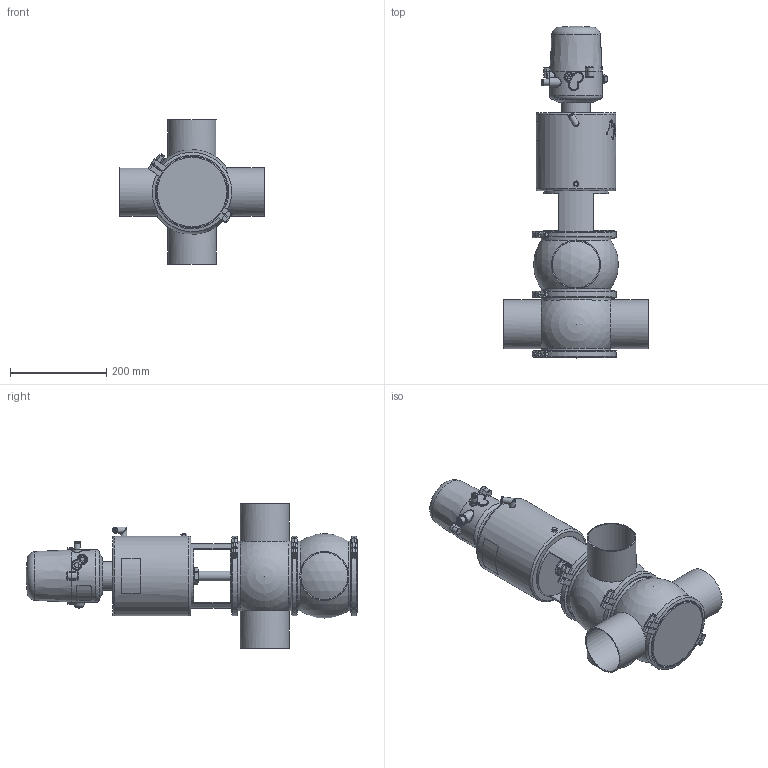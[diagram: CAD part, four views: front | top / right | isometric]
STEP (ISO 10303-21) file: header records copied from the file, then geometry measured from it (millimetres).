
FILE_DESCRIPTION (( 'STEP AP214' ), '1' );
FILE_NAME ('INNOVA M C W OD 4 T4 AS NC & C-TOP S_10.241.16.0043.STEP', '2024-08-07T06:32:44', ( '' ), ( '' ), 'SwSTEP 2.0', 'SolidWorks 2023', '' );
FILE_SCHEMA (( 'AUTOMOTIVE_DESIGN' ));
Length unit declared in the file: millimetre
Products named in the file (8): 10.240.15.0017_Estàndard; INNOVA M C W OD 4 T4 AS NC & C-TOP S_10.241.16.0043; 10.240.15.0007_OD 4"; 10.240.15.0014_T4 AS P180; 10.241.15.0001_DIN 100; 10.426.15.0001_C-TOP S - 1 EV; 10.240.15.0010_DN 100; 10.240.15.0001_DN 100
Assembly tree (10 placements, depth 2):
  INNOVA M C W OD 4 T4 AS NC & C-TOP S_10.241.16.0043
    10.240.15.0007_OD 4"  x2
    10.240.15.0010_DN 100
    10.240.15.0014_T4 AS P180
    10.240.15.0017_Estàndard
    10.426.15.0001_C-TOP S - 1 EV
    10.240.15.0001_DN 100  x3
    10.241.15.0001_DIN 100
Bounding box: 300 x 689.5 x 300 mm (x, y, z)
Volume: 10902340.1 mm3; surface area: 853181.1 mm2
Topology: 11 solids, 11 shells, 1244 faces, 3038 edges, 2018 vertices
Faces by surface type: plane 444, cylinder 381, cone 211, bspline 160, torus 36, sphere 12
Full cylindrical faces by diameter (mm): 0.371 x17, 0.512 x16, 0.658 x16, 0.795 x16, 0.94 x15, 1.098 x15, 1.241 x13, 1.382 x13, 1.523 x11, 1.669 x10, 2.201 x1, 4 x2, 5.5 x2, 6 x2, 6.15 x1, 8 x8, 8.5 x1, 10 x1, 10.5 x1, 11 x2, 12.5 x3, 13 x2, 13.5 x2, 16 x1, 17 x3, 20 x3, 20.5 x1, 22 x2, 31 x1, 34.5 x3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
Entity records: 57923 total; most frequent: CARTESIAN_POINT 27780, ORIENTED_EDGE 4508, DIRECTION 3633, EDGE_CURVE 2254, VERTEX_POINT 1601, EDGE_LOOP 1553, AXIS2_PLACEMENT_3D 1488, FACE_OUTER_BOUND 1319
